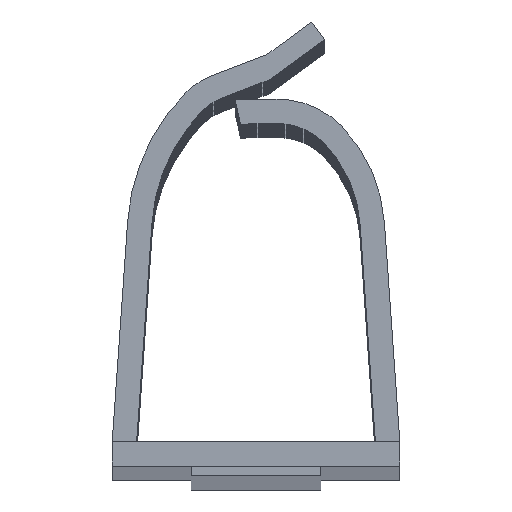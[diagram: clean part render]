
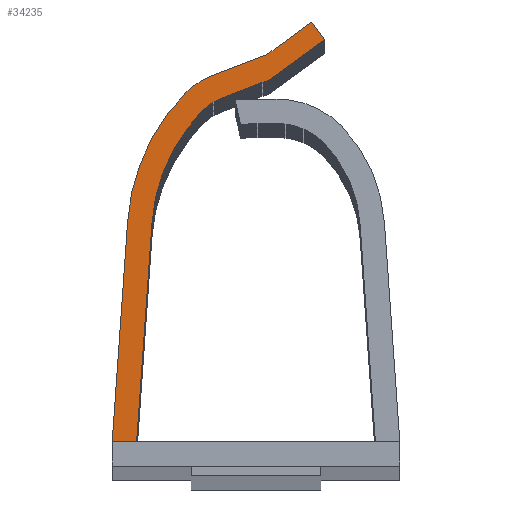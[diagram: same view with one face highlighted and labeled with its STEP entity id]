
A CAD part, top view. The second image highlights one B-rep face of the part: STEP entity #34235.
In plain terms, the highlighted planar face has unit normal (0, 0, 1).
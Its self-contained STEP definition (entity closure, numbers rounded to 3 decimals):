
#1857 = EDGE_CURVE('',#1858,#1860,#1862,.T.);
#1858 = VERTEX_POINT('',#1859);
#1859 = CARTESIAN_POINT('',(-8.85,1.5,249.4));
#1860 = VERTEX_POINT('',#1861);
#1861 = CARTESIAN_POINT('',(-7.346,1.5,249.4));
#1862 = LINE('',#1863,#1864);
#1863 = CARTESIAN_POINT('',(0.,1.5,249.4));
#1864 = VECTOR('',#1865,1.);
#1865 = DIRECTION('',(1.,-0.,0.));
#33900 = VERTEX_POINT('',#33901);
#33901 = CARTESIAN_POINT('',(-3.252,21.929,249.4));
#33909 = EDGE_CURVE('',#33910,#33900,#33912,.T.);
#33910 = VERTEX_POINT('',#33911);
#33911 = CARTESIAN_POINT('',(-2.194,22.619,249.4));
#33912 = CIRCLE('',#33913,3.);
#33913 = AXIS2_PLACEMENT_3D('',#33914,#33915,#33916);
#33914 = CARTESIAN_POINT('',(-1.119,19.819,249.4));
#33915 = DIRECTION('',(0.,-0.,1.));
#33916 = DIRECTION('',(-1.,0.,0.));
#33950 = VERTEX_POINT('',#33951);
#33951 = CARTESIAN_POINT('',(0.806,23.771,249.4));
#33957 = EDGE_CURVE('',#33950,#33910,#33958,.T.);
#33958 = LINE('',#33959,#33960);
#33959 = CARTESIAN_POINT('',(-7.849,20.449,249.4));
#33960 = VECTOR('',#33961,1.);
#33961 = DIRECTION('',(-0.934,-0.358,0.));
#33981 = VERTEX_POINT('',#33982);
#33982 = CARTESIAN_POINT('',(4.22,26.252,249.4));
#33988 = EDGE_CURVE('',#33981,#33950,#33989,.T.);
#33989 = LINE('',#33990,#33991);
#33990 = CARTESIAN_POINT('',(-11.025,15.175,249.4));
#33991 = VECTOR('',#33992,1.);
#33992 = DIRECTION('',(-0.809,-0.588,0.));
#34012 = VERTEX_POINT('',#34013);
#34013 = CARTESIAN_POINT('',(3.434,27.334,249.4));
#34019 = EDGE_CURVE('',#34012,#33981,#34020,.T.);
#34020 = LINE('',#34021,#34022);
#34021 = CARTESIAN_POINT('',(15.246,11.077,249.4));
#34022 = VECTOR('',#34023,1.);
#34023 = DIRECTION('',(0.588,-0.809,0.));
#34043 = VERTEX_POINT('',#34044);
#34044 = CARTESIAN_POINT('',(0.67,25.326,249.4));
#34050 = EDGE_CURVE('',#34012,#34043,#34051,.T.);
#34051 = LINE('',#34052,#34053);
#34052 = CARTESIAN_POINT('',(-11.811,16.257,249.4));
#34053 = VECTOR('',#34054,1.);
#34054 = DIRECTION('',(-0.809,-0.588,0.));
#34074 = VERTEX_POINT('',#34075);
#34075 = CARTESIAN_POINT('',(-2.732,24.02,249.4));
#34081 = EDGE_CURVE('',#34074,#34043,#34082,.T.);
#34082 = LINE('',#34083,#34084);
#34083 = CARTESIAN_POINT('',(-8.387,21.849,249.4));
#34084 = VECTOR('',#34085,1.);
#34085 = DIRECTION('',(0.934,0.358,0.));
#34106 = VERTEX_POINT('',#34107);
#34107 = CARTESIAN_POINT('',(-4.318,22.984,249.4));
#34113 = EDGE_CURVE('',#34106,#34074,#34114,.T.);
#34114 = CIRCLE('',#34115,4.5);
#34115 = AXIS2_PLACEMENT_3D('',#34116,#34117,#34118);
#34116 = CARTESIAN_POINT('',(-1.119,19.819,249.4));
#34117 = DIRECTION('',(0.,0.,-1.));
#34118 = DIRECTION('',(-1.,0.,0.));
#34139 = VERTEX_POINT('',#34140);
#34140 = CARTESIAN_POINT('',(-7.902,15.064,249.4));
#34146 = EDGE_CURVE('',#34139,#34106,#34147,.T.);
#34147 = CIRCLE('',#34148,12.5);
#34148 = AXIS2_PLACEMENT_3D('',#34149,#34150,#34151);
#34149 = CARTESIAN_POINT('',(4.568,14.192,249.4));
#34150 = DIRECTION('',(0.,0.,-1.));
#34151 = DIRECTION('',(-1.,0.,0.));
#34169 = EDGE_CURVE('',#1858,#34139,#34170,.T.);
#34170 = LINE('',#34171,#34172);
#34171 = CARTESIAN_POINT('',(-8.911,0.623,249.4));
#34172 = VECTOR('',#34173,1.);
#34173 = DIRECTION('',(0.07,0.998,0.));
#34193 = VERTEX_POINT('',#34194);
#34194 = CARTESIAN_POINT('',(-6.405,14.959,249.4));
#34200 = EDGE_CURVE('',#34193,#1860,#34201,.T.);
#34201 = LINE('',#34202,#34203);
#34202 = CARTESIAN_POINT('',(-7.415,0.519,249.4));
#34203 = VECTOR('',#34204,1.);
#34204 = DIRECTION('',(-0.07,-0.998,0.));
#34216 = EDGE_CURVE('',#33900,#34193,#34217,.T.);
#34217 = CIRCLE('',#34218,11.);
#34218 = AXIS2_PLACEMENT_3D('',#34219,#34220,#34221);
#34219 = CARTESIAN_POINT('',(4.568,14.192,249.4));
#34220 = DIRECTION('',(0.,-0.,1.));
#34221 = DIRECTION('',(-1.,0.,0.));
#34235 = ADVANCED_FACE('',(#34236),#34250,.F.);
#34236 = FACE_BOUND('',#34237,.T.);
#34237 = EDGE_LOOP('',(#34238,#34239,#34240,#34241,#34242,#34243,#34244,
    #34245,#34246,#34247,#34248,#34249));
#34238 = ORIENTED_EDGE('',*,*,#33909,.F.);
#34239 = ORIENTED_EDGE('',*,*,#33957,.F.);
#34240 = ORIENTED_EDGE('',*,*,#33988,.F.);
#34241 = ORIENTED_EDGE('',*,*,#34019,.F.);
#34242 = ORIENTED_EDGE('',*,*,#34050,.T.);
#34243 = ORIENTED_EDGE('',*,*,#34081,.F.);
#34244 = ORIENTED_EDGE('',*,*,#34113,.F.);
#34245 = ORIENTED_EDGE('',*,*,#34146,.F.);
#34246 = ORIENTED_EDGE('',*,*,#34169,.F.);
#34247 = ORIENTED_EDGE('',*,*,#1857,.T.);
#34248 = ORIENTED_EDGE('',*,*,#34200,.F.);
#34249 = ORIENTED_EDGE('',*,*,#34216,.F.);
#34250 = PLANE('',#34251);
#34251 = AXIS2_PLACEMENT_3D('',#34252,#34253,#34254);
#34252 = CARTESIAN_POINT('',(0.,0.,249.4));
#34253 = DIRECTION('',(0.,0.,-1.));
#34254 = DIRECTION('',(-1.,0.,-0.));
